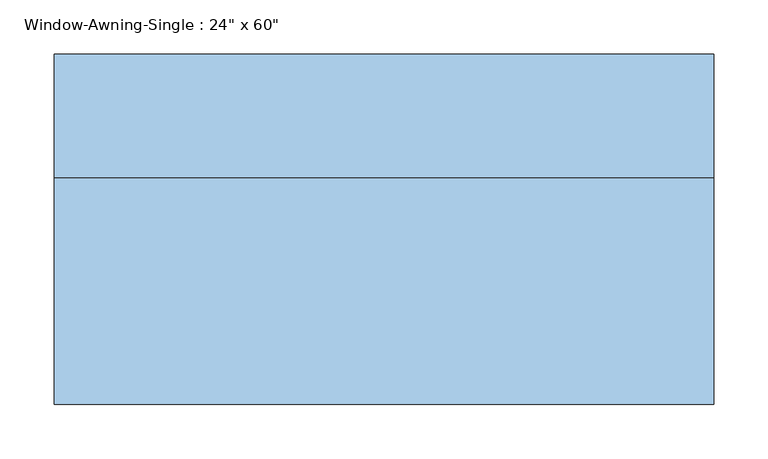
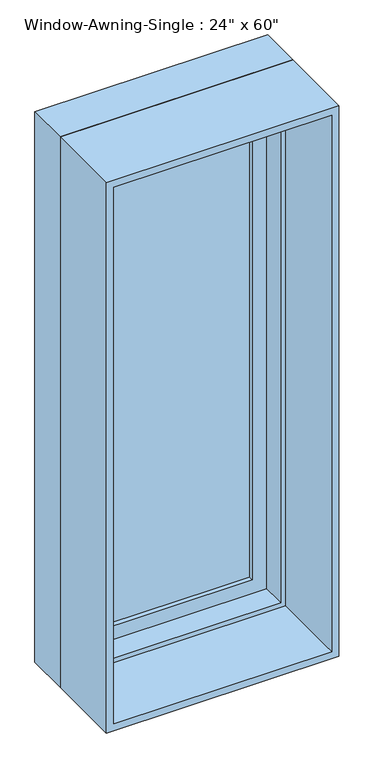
"""IFC4 building model written with IfcOpenShell, lengths in millimetres: window geometry."""

from ifc_helpers import new_model, si_unit, frame, origin, place, context, project, spatial, polyline, outline, extrude, faceted_brep, source, transform, mapped, element, save


def window_83f426f6(model_context):
    return source(origin(), model_context, "Body", "SolidModel", [
        faceted_brep([(292.1, 120.65, 927.1), (292.1, 171.45, 927.1), (-292.1, 171.45, 927.1), (-292.1, 120.65, 927.1), (273.05, 57.15, 946.15), (273.05, 120.65, 946.15), (-273.05, 120.65, 946.15), (-273.05, 57.15, 946.15), (304.8, 171.45, 914.4), (304.8, 57.15, 914.4), (-304.8, 57.15, 914.4), (-304.8, 171.45, 914.4), (-292.1, 171.45, 2425.7), (-292.1, 120.65, 2425.7), (-273.05, 120.65, 2406.65), (-273.05, 57.15, 2406.65), (-304.8, 57.15, 2438.4), (-304.8, 171.45, 2438.4), (292.1, 171.45, 2425.7), (292.1, 120.65, 2425.7), (273.05, 120.65, 2406.65), (273.05, 57.15, 2406.65), (304.8, 57.15, 2438.4), (304.8, 171.45, 2438.4)], [[[0, 1, 2, 3]], [[4, 5, 6, 7]], [[8, 9, 10, 11]], [[3, 2, 12, 13]], [[7, 6, 14, 15]], [[11, 10, 16, 17]], [[13, 12, 18, 19]], [[15, 14, 20, 21]], [[17, 16, 22, 23]], [[11, 17, 23, 8], [1, 18, 12, 2]], [[19, 18, 1, 0]], [[3, 13, 19, 0], [5, 20, 14, 6]], [[21, 20, 5, 4]], [[9, 22, 16, 10], [7, 15, 21, 4]], [[23, 22, 9, 8]]]),
        extrude(outline(polyline([(234.95, 152.4), (234.95, 146.05), (-234.95, 146.05), (-234.95, 152.4), (234.95, 152.4)])), frame((0.0, 0.0, 984.25), z_axis=(0.0, 0.0, 1.0), x_axis=(1.0, 0.0, 0.0)), (0.0, 0.0, 1.0), 1384.3),
        extrude(outline(polyline([(234.95, 139.7), (234.95, 133.35), (-234.95, 133.35), (-234.95, 139.7), (234.95, 139.7)])), frame((0.0, 0.0, 984.25), z_axis=(0.0, 0.0, 1.0), x_axis=(1.0, 0.0, 0.0)), (0.0, 0.0, 1.0), 1384.3),
        extrude(outline(polyline([(927.1, -292.1), (927.1, 292.1), (2425.7, 292.1), (2425.7, -292.1), (927.1, -292.1)]), holes=[polyline([(2368.55, -234.95), (2368.55, 234.95), (984.25, 234.95), (984.25, -234.95), (2368.55, -234.95)])]), frame((0.0, 120.65, 0.0), z_axis=(0.0, 1.0, 0.0), x_axis=(0.0, 0.0, 1.0)), (0.0, 0.0, 1.0), 44.45),
        extrude(outline(polyline([(2438.4, -304.8), (914.4, -304.8), (914.4, 304.8), (2438.4, 304.8), (2438.4, -304.8)]), holes=[polyline([(2419.35, -285.75), (2419.35, 285.75), (933.45, 285.75), (933.45, -285.75), (2419.35, -285.75)])]), frame((0.0, -152.4, 0.0), z_axis=(0.0, 1.0, 0.0), x_axis=(0.0, 0.0, 1.0)), (0.0, 0.0, 1.0), 209.55),
    ])


if __name__ == "__main__":
    model = new_model("IFC4")
    model_context = context("Model", 3, world=origin())
    ifc_project = project(units=[si_unit("LENGTHUNIT", "METRE", prefix="MILLI")], contexts=[model_context])
    site = spatial("IfcSite", under=ifc_project)
    building = spatial("IfcBuilding", under=site)
    placement = place(None, origin())
    window_shape = window_83f426f6(model_context)
    element("IfcWindow", 1, ObjectType="Window-Awning-Single : 24\" x 60\"", at=placement, inside=building, context=model_context, shape_type="MappedRepresentation", body=[
        mapped(window_shape, transform((0.0, 0.0, 0.0), x_axis=(1.0, 0.0, 0.0), y_axis=(0.0, 1.0, 0.0), z_axis=(0.0, 0.0, 1.0))),
    ])
    save(model, "model.ifc")
